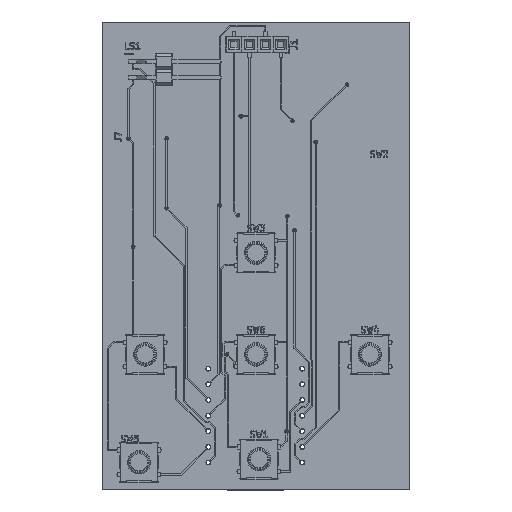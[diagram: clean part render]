
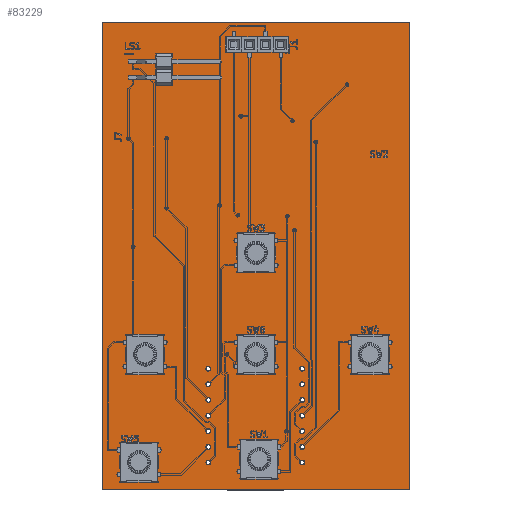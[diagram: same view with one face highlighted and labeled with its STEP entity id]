
A CAD part, top view. The second image highlights one B-rep face of the part: STEP entity #83229.
In plain terms, the highlighted planar face has unit normal (0, 0, 1).
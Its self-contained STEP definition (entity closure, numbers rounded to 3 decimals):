
#83229 = ADVANCED_FACE('',(#83230,#83264,#83275,#83286,#83297,#83308,
    #83319,#83330,#83341,#83352,#83363,#83374,#83385,#83396,#83407),
  #83418,.T.);
#83230 = FACE_BOUND('',#83231,.F.);
#83231 = EDGE_LOOP('',(#83232,#83242,#83250,#83258));
#83232 = ORIENTED_EDGE('',*,*,#83233,.T.);
#83233 = EDGE_CURVE('',#83234,#83236,#83238,.T.);
#83234 = VERTEX_POINT('',#83235);
#83235 = CARTESIAN_POINT('',(25.,-125.5,1.56));
#83236 = VERTEX_POINT('',#83237);
#83237 = CARTESIAN_POINT('',(25.,-49.5,1.56));
#83238 = LINE('',#83239,#83240);
#83239 = CARTESIAN_POINT('',(25.,-125.5,1.56));
#83240 = VECTOR('',#83241,1.);
#83241 = DIRECTION('',(0.,1.,0.));
#83242 = ORIENTED_EDGE('',*,*,#83243,.T.);
#83243 = EDGE_CURVE('',#83236,#83244,#83246,.T.);
#83244 = VERTEX_POINT('',#83245);
#83245 = CARTESIAN_POINT('',(75.,-49.5,1.56));
#83246 = LINE('',#83247,#83248);
#83247 = CARTESIAN_POINT('',(25.,-49.5,1.56));
#83248 = VECTOR('',#83249,1.);
#83249 = DIRECTION('',(1.,0.,0.));
#83250 = ORIENTED_EDGE('',*,*,#83251,.T.);
#83251 = EDGE_CURVE('',#83244,#83252,#83254,.T.);
#83252 = VERTEX_POINT('',#83253);
#83253 = CARTESIAN_POINT('',(75.,-125.5,1.56));
#83254 = LINE('',#83255,#83256);
#83255 = CARTESIAN_POINT('',(75.,-49.5,1.56));
#83256 = VECTOR('',#83257,1.);
#83257 = DIRECTION('',(0.,-1.,0.));
#83258 = ORIENTED_EDGE('',*,*,#83259,.T.);
#83259 = EDGE_CURVE('',#83252,#83234,#83260,.T.);
#83260 = LINE('',#83261,#83262);
#83261 = CARTESIAN_POINT('',(75.,-125.5,1.56));
#83262 = VECTOR('',#83263,1.);
#83263 = DIRECTION('',(-1.,0.,0.));
#83264 = FACE_BOUND('',#83265,.F.);
#83265 = EDGE_LOOP('',(#83266));
#83266 = ORIENTED_EDGE('',*,*,#83267,.T.);
#83267 = EDGE_CURVE('',#83268,#83268,#83270,.T.);
#83268 = VERTEX_POINT('',#83269);
#83269 = CARTESIAN_POINT('',(42.652,-121.04,1.56));
#83270 = CIRCLE('',#83271,0.387);
#83271 = AXIS2_PLACEMENT_3D('',#83272,#83273,#83274);
#83272 = CARTESIAN_POINT('',(42.265,-121.04,1.56));
#83273 = DIRECTION('',(0.,0.,1.));
#83274 = DIRECTION('',(1.,0.,-0.));
#83275 = FACE_BOUND('',#83276,.F.);
#83276 = EDGE_LOOP('',(#83277));
#83277 = ORIENTED_EDGE('',*,*,#83278,.T.);
#83278 = EDGE_CURVE('',#83279,#83279,#83281,.T.);
#83279 = VERTEX_POINT('',#83280);
#83280 = CARTESIAN_POINT('',(57.887,-121.04,1.56));
#83281 = CIRCLE('',#83282,0.387);
#83282 = AXIS2_PLACEMENT_3D('',#83283,#83284,#83285);
#83283 = CARTESIAN_POINT('',(57.5,-121.04,1.56));
#83284 = DIRECTION('',(0.,0.,1.));
#83285 = DIRECTION('',(1.,0.,-0.));
#83286 = FACE_BOUND('',#83287,.F.);
#83287 = EDGE_LOOP('',(#83288));
#83288 = ORIENTED_EDGE('',*,*,#83289,.T.);
#83289 = EDGE_CURVE('',#83290,#83290,#83292,.T.);
#83290 = VERTEX_POINT('',#83291);
#83291 = CARTESIAN_POINT('',(42.652,-118.5,1.56));
#83292 = CIRCLE('',#83293,0.387);
#83293 = AXIS2_PLACEMENT_3D('',#83294,#83295,#83296);
#83294 = CARTESIAN_POINT('',(42.265,-118.5,1.56));
#83295 = DIRECTION('',(0.,0.,1.));
#83296 = DIRECTION('',(1.,0.,-0.));
#83297 = FACE_BOUND('',#83298,.F.);
#83298 = EDGE_LOOP('',(#83299));
#83299 = ORIENTED_EDGE('',*,*,#83300,.T.);
#83300 = EDGE_CURVE('',#83301,#83301,#83303,.T.);
#83301 = VERTEX_POINT('',#83302);
#83302 = CARTESIAN_POINT('',(57.887,-118.5,1.56));
#83303 = CIRCLE('',#83304,0.387);
#83304 = AXIS2_PLACEMENT_3D('',#83305,#83306,#83307);
#83305 = CARTESIAN_POINT('',(57.5,-118.5,1.56));
#83306 = DIRECTION('',(0.,0.,1.));
#83307 = DIRECTION('',(1.,0.,-0.));
#83308 = FACE_BOUND('',#83309,.F.);
#83309 = EDGE_LOOP('',(#83310));
#83310 = ORIENTED_EDGE('',*,*,#83311,.T.);
#83311 = EDGE_CURVE('',#83312,#83312,#83314,.T.);
#83312 = VERTEX_POINT('',#83313);
#83313 = CARTESIAN_POINT('',(42.652,-115.96,1.56));
#83314 = CIRCLE('',#83315,0.387);
#83315 = AXIS2_PLACEMENT_3D('',#83316,#83317,#83318);
#83316 = CARTESIAN_POINT('',(42.265,-115.96,1.56));
#83317 = DIRECTION('',(0.,0.,1.));
#83318 = DIRECTION('',(1.,0.,-0.));
#83319 = FACE_BOUND('',#83320,.F.);
#83320 = EDGE_LOOP('',(#83321));
#83321 = ORIENTED_EDGE('',*,*,#83322,.T.);
#83322 = EDGE_CURVE('',#83323,#83323,#83325,.T.);
#83323 = VERTEX_POINT('',#83324);
#83324 = CARTESIAN_POINT('',(57.887,-115.96,1.56));
#83325 = CIRCLE('',#83326,0.387);
#83326 = AXIS2_PLACEMENT_3D('',#83327,#83328,#83329);
#83327 = CARTESIAN_POINT('',(57.5,-115.96,1.56));
#83328 = DIRECTION('',(0.,0.,1.));
#83329 = DIRECTION('',(1.,0.,-0.));
#83330 = FACE_BOUND('',#83331,.F.);
#83331 = EDGE_LOOP('',(#83332));
#83332 = ORIENTED_EDGE('',*,*,#83333,.T.);
#83333 = EDGE_CURVE('',#83334,#83334,#83336,.T.);
#83334 = VERTEX_POINT('',#83335);
#83335 = CARTESIAN_POINT('',(42.652,-113.42,1.56));
#83336 = CIRCLE('',#83337,0.387);
#83337 = AXIS2_PLACEMENT_3D('',#83338,#83339,#83340);
#83338 = CARTESIAN_POINT('',(42.265,-113.42,1.56));
#83339 = DIRECTION('',(0.,0.,1.));
#83340 = DIRECTION('',(1.,0.,-0.));
#83341 = FACE_BOUND('',#83342,.F.);
#83342 = EDGE_LOOP('',(#83343));
#83343 = ORIENTED_EDGE('',*,*,#83344,.T.);
#83344 = EDGE_CURVE('',#83345,#83345,#83347,.T.);
#83345 = VERTEX_POINT('',#83346);
#83346 = CARTESIAN_POINT('',(57.887,-113.42,1.56));
#83347 = CIRCLE('',#83348,0.387);
#83348 = AXIS2_PLACEMENT_3D('',#83349,#83350,#83351);
#83349 = CARTESIAN_POINT('',(57.5,-113.42,1.56));
#83350 = DIRECTION('',(0.,0.,1.));
#83351 = DIRECTION('',(1.,0.,-0.));
#83352 = FACE_BOUND('',#83353,.F.);
#83353 = EDGE_LOOP('',(#83354));
#83354 = ORIENTED_EDGE('',*,*,#83355,.T.);
#83355 = EDGE_CURVE('',#83356,#83356,#83358,.T.);
#83356 = VERTEX_POINT('',#83357);
#83357 = CARTESIAN_POINT('',(42.652,-110.88,1.56));
#83358 = CIRCLE('',#83359,0.387);
#83359 = AXIS2_PLACEMENT_3D('',#83360,#83361,#83362);
#83360 = CARTESIAN_POINT('',(42.265,-110.88,1.56));
#83361 = DIRECTION('',(0.,0.,1.));
#83362 = DIRECTION('',(1.,0.,-0.));
#83363 = FACE_BOUND('',#83364,.F.);
#83364 = EDGE_LOOP('',(#83365));
#83365 = ORIENTED_EDGE('',*,*,#83366,.T.);
#83366 = EDGE_CURVE('',#83367,#83367,#83369,.T.);
#83367 = VERTEX_POINT('',#83368);
#83368 = CARTESIAN_POINT('',(57.887,-110.88,1.56));
#83369 = CIRCLE('',#83370,0.387);
#83370 = AXIS2_PLACEMENT_3D('',#83371,#83372,#83373);
#83371 = CARTESIAN_POINT('',(57.5,-110.88,1.56));
#83372 = DIRECTION('',(0.,0.,1.));
#83373 = DIRECTION('',(1.,0.,-0.));
#83374 = FACE_BOUND('',#83375,.F.);
#83375 = EDGE_LOOP('',(#83376));
#83376 = ORIENTED_EDGE('',*,*,#83377,.T.);
#83377 = EDGE_CURVE('',#83378,#83378,#83380,.T.);
#83378 = VERTEX_POINT('',#83379);
#83379 = CARTESIAN_POINT('',(42.652,-108.34,1.56));
#83380 = CIRCLE('',#83381,0.387);
#83381 = AXIS2_PLACEMENT_3D('',#83382,#83383,#83384);
#83382 = CARTESIAN_POINT('',(42.265,-108.34,1.56));
#83383 = DIRECTION('',(0.,0.,1.));
#83384 = DIRECTION('',(1.,0.,-0.));
#83385 = FACE_BOUND('',#83386,.F.);
#83386 = EDGE_LOOP('',(#83387));
#83387 = ORIENTED_EDGE('',*,*,#83388,.T.);
#83388 = EDGE_CURVE('',#83389,#83389,#83391,.T.);
#83389 = VERTEX_POINT('',#83390);
#83390 = CARTESIAN_POINT('',(57.887,-108.34,1.56));
#83391 = CIRCLE('',#83392,0.387);
#83392 = AXIS2_PLACEMENT_3D('',#83393,#83394,#83395);
#83393 = CARTESIAN_POINT('',(57.5,-108.34,1.56));
#83394 = DIRECTION('',(0.,0.,1.));
#83395 = DIRECTION('',(1.,0.,-0.));
#83396 = FACE_BOUND('',#83397,.F.);
#83397 = EDGE_LOOP('',(#83398));
#83398 = ORIENTED_EDGE('',*,*,#83399,.T.);
#83399 = EDGE_CURVE('',#83400,#83400,#83402,.T.);
#83400 = VERTEX_POINT('',#83401);
#83401 = CARTESIAN_POINT('',(42.652,-105.8,1.56));
#83402 = CIRCLE('',#83403,0.387);
#83403 = AXIS2_PLACEMENT_3D('',#83404,#83405,#83406);
#83404 = CARTESIAN_POINT('',(42.265,-105.8,1.56));
#83405 = DIRECTION('',(0.,0.,1.));
#83406 = DIRECTION('',(1.,0.,-0.));
#83407 = FACE_BOUND('',#83408,.F.);
#83408 = EDGE_LOOP('',(#83409));
#83409 = ORIENTED_EDGE('',*,*,#83410,.T.);
#83410 = EDGE_CURVE('',#83411,#83411,#83413,.T.);
#83411 = VERTEX_POINT('',#83412);
#83412 = CARTESIAN_POINT('',(57.887,-105.8,1.56));
#83413 = CIRCLE('',#83414,0.387);
#83414 = AXIS2_PLACEMENT_3D('',#83415,#83416,#83417);
#83415 = CARTESIAN_POINT('',(57.5,-105.8,1.56));
#83416 = DIRECTION('',(0.,0.,1.));
#83417 = DIRECTION('',(1.,0.,-0.));
#83418 = PLANE('',#83419);
#83419 = AXIS2_PLACEMENT_3D('',#83420,#83421,#83422);
#83420 = CARTESIAN_POINT('',(0.,0.,1.56));
#83421 = DIRECTION('',(0.,0.,1.));
#83422 = DIRECTION('',(1.,0.,-0.));
